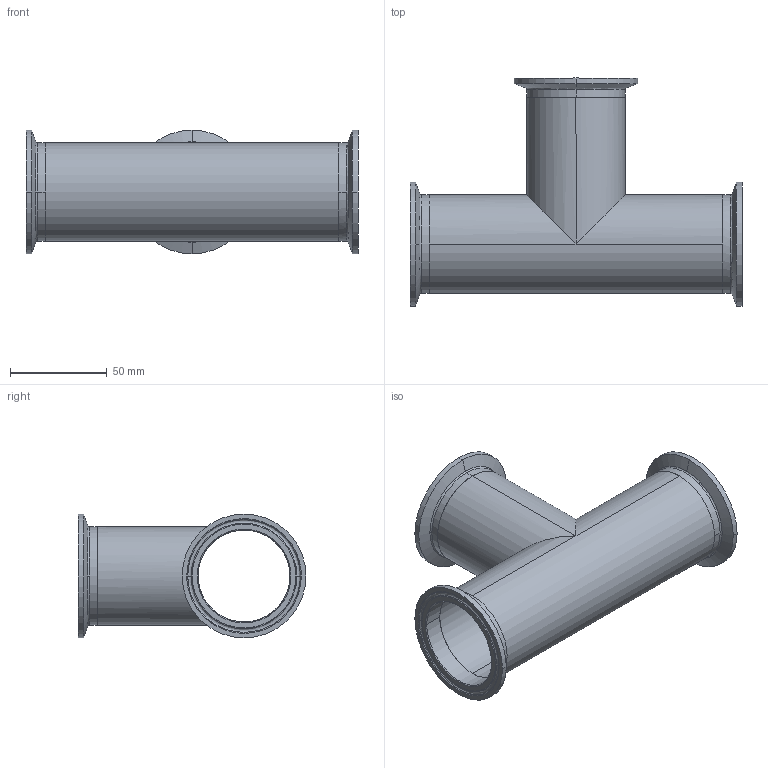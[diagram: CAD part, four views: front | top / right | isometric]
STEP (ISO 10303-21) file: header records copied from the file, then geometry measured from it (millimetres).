
FILE_DESCRIPTION (( 'STEP AP214' ), '1' );
FILE_NAME ('TEG76L2.0-...STEP', '2016-05-23T07:02:45', ( 'eran' ), ( '' ), 'SwSTEP 2.0', 'SolidWorks 2016', '' );
FILE_SCHEMA (( 'AUTOMOTIVE_DESIGN' ));
Length unit declared in the file: millimetre
Products named in the file (1): TEG76L2.0-..
Bounding box: 171.4 x 117.65 x 63.91 mm (x, y, z)
Volume: 71214.5 mm3; surface area: 78740.1 mm2
Topology: 4 solids, 4 shells, 88 faces, 220 edges, 142 vertices
Faces by surface type: bspline 30, cylinder 28, cone 18, plane 12
Entity records: 6052 total; most frequent: CARTESIAN_POINT 3914, DIRECTION 448, ORIENTED_EDGE 440, EDGE_CURVE 220, AXIS2_PLACEMENT_3D 200, VERTEX_POINT 142, CIRCLE 141, EDGE_LOOP 100
